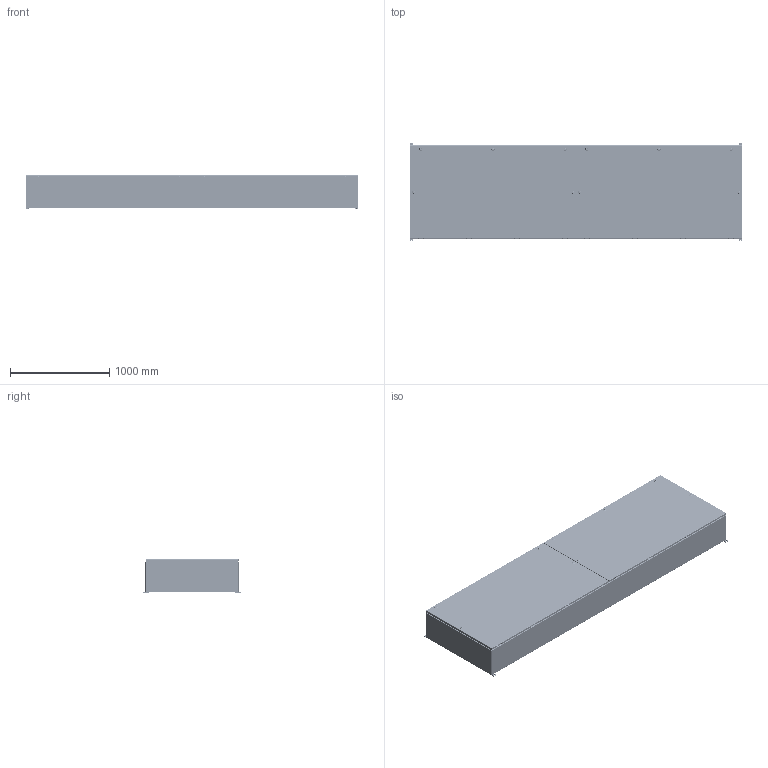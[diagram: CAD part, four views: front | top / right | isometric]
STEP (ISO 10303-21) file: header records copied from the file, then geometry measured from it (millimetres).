
FILE_DESCRIPTION(/* description */ ('1412BTSSCU 2500A - 4 Wires x 132" Assembly'),/* implementation_level */ '2;1');
FILE_NAME(/* name */ 'C:\Vault_Workspace\Inventor_Dwg\BoxCad\Result\1412BTSSCU112504\e-mail\3D\1412BTSSCU112504.stp',/* time_stamp */ '2022-09-22T18:48:40-04:00',/* author */ ('BoxCad'),/* organization */ (''),/* preprocessor_version */ 'ST-DEVELOPER v18.1',/* originating_system */ 'Autodesk Inventor 2020',/* authorisation */ '');
FILE_SCHEMA (('AUTOMOTIVE_DESIGN { 1 0 10303 214 3 1 1 }'));
Products named in the file (67): 1412BTSSCU112504; 1412BTSSCU112504B; 1412BTSSCU112504B-P; 1412BTSSCU112504E-P; STK-Q-16020; iLogic_STK-G-00701; STK-Q-00260; STK-Q-07220-1; STK-Q-07220-A; STK-Q-07220-B; 1412BTSSCU112504C; 1412BTSSCU112504C-P; 1412BTSSCU112504F-P; 1412BTSSCU112504G; STK-Q-16095; STK-K-09850-1; STK-Q-33019; STK-Q-90111; STK-Q-40096; STK-Q-63412; STK-S-00100; STK-A-880SCQ4-SLSS6-1; STK-A-880SCQ4-SLSS6-2; STK-A-880SCQ4-SLSS6-3; STK-A-880SCQ4-SLSS6-4; STK-A-880SCQ4-SLSS6-5; STK-A-880SCQ4-SLSS6-6; STK-A-880SCQ4-SLSS6-7; STK-A-880SCQ4-SLSS6-8; STK-A-880SCQ4-SLSS6-9; STK-A-880SCQ4-SLSS6-10; STK-Q-70621; STK-Q-70631; STK-Q-78145; STK-Q-03200; STK-Q-78125; STK-Q-90390; STK-Q-78160; STK-Q-78141; 1412BTSSCU112504IP1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
Assembly tree (256 placements, depth 4):
  1412BTSSCU112504
    1412BTSSCU112504B
      1412BTSSCU112504B-P
      1412BTSSCU112504E-P
      STK-Q-16095  x2
      STK-Q-16020  x12
      iLogic_STK-G-00701
      STK-Q-00260  x10
      STK-Q-07220-1  x10
        STK-Q-07220-A
        STK-Q-07220-B
      STK-S-00100
    1412BTSSCU112504C
      1412BTSSCU112504C-P
      1412BTSSCU112504F-P
      1412BTSSCU112504G  x2
      STK-Q-16095  x2
      STK-K-09850-1  x8
        STK-Q-33019
        STK-Q-90111
        STK-Q-40096
        STK-Q-63412
      STK-S-00100
      STK-A-880SCQ4-SLSS6-1
        STK-Q-70621
        STK-Q-70631
        STK-Q-78145
        STK-Q-03200
        STK-Q-78125
        STK-Q-90390
        STK-Q-78160
        STK-Q-78141
      STK-A-880SCQ4-SLSS6-2
        STK-Q-70621
        STK-Q-70631
        STK-Q-78145
        STK-Q-03200
        STK-Q-78125
        STK-Q-90390
        STK-Q-78160
        STK-Q-78141
      STK-A-880SCQ4-SLSS6-3
        STK-Q-70621
        STK-Q-70631
        STK-Q-78145
        STK-Q-03200
        STK-Q-78125
        STK-Q-90390
        STK-Q-78160
        STK-Q-78141
      STK-A-880SCQ4-SLSS6-4
        STK-Q-70621
        STK-Q-70631
        STK-Q-78145
        STK-Q-03200
        STK-Q-78125
        STK-Q-90390
        STK-Q-78160
        STK-Q-78141
      STK-A-880SCQ4-SLSS6-5
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Bounding box: 3352.8 x 996.95 x 344.99 mm (x, y, z)
Volume: 41498192.6 mm3; surface area: 27393077.9 mm2
Topology: 400 solids, 400 shells, 56658 faces, 148490 edges, 92616 vertices
Faces by surface type: plane 21502, bspline 15400, cylinder 13842, torus 4008, sphere 1224, cone 682
Full cylindrical faces by diameter (mm): 0.75 x16, 0.762 x16, 1 x32, 1.1 x32, 3.2 x16, 4.5 x80, 4.85 x64, 4.917 x8, 4.95 x16, 5 x10, 5.1 x140, 5.9 x278, 6.65 x20, 6.655 x12, 6.8 x10, 6.85 x120, 7.366 x16, 7.8 x820, 8 x74, 8.25 x40, 8.6 x12, 9.5 x10, 9.6 x10, 9.7 x48, 9.906 x4, 10 x18, 10.312 x2, 11.5 x40, 12 x28, 12.7 x2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
Entity records: 235078 total; most frequent: CARTESIAN_POINT 90406, ORIENTED_EDGE 31882, DIRECTION 25813, EDGE_CURVE 15941, VERTEX_POINT 10200, AXIS2_PLACEMENT_3D 8827, LINE 8159, VECTOR 8159
